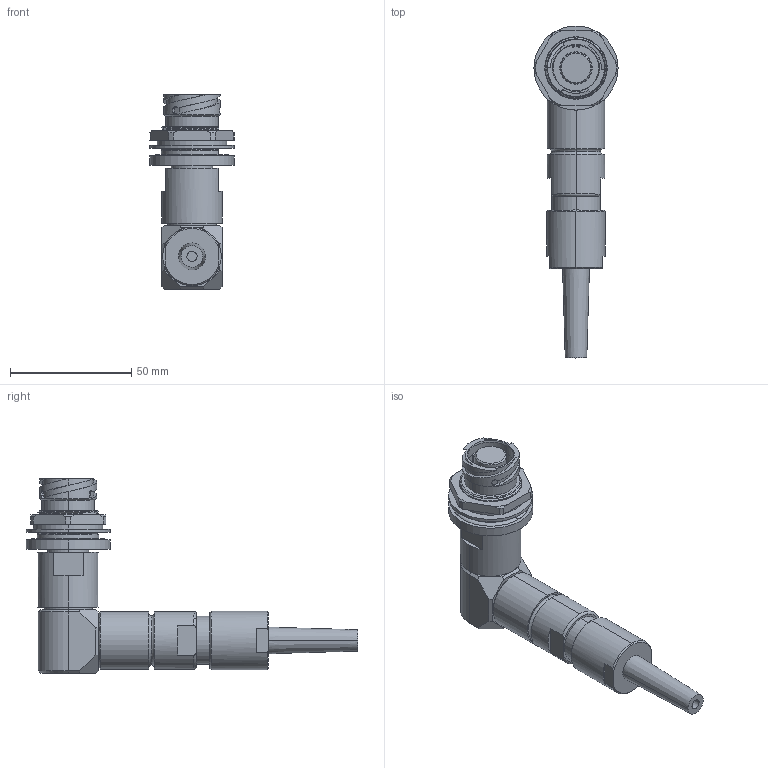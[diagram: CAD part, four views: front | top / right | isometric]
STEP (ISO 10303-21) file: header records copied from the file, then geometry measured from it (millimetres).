
FILE_DESCRIPTION (( 'STEP AP214' ), '1' );
FILE_NAME ('QLINK90-RJBX-13XX-SXXX-RA.STEP', '2025-12-16T16:53:07', ( '' ), ( '' ), 'SwSTEP 2.0', 'SolidWorks 2024', '' );
FILE_SCHEMA (( 'AUTOMOTIVE_DESIGN' ));
Length unit declared in the file: millimetre
Products named in the file (1): QLINK90-RJBX-13XX-SXXX-RA
Bounding box: 34.67 x 136.85 x 80.31 mm (x, y, z)
Volume: 71715.2 mm3; surface area: 23356.4 mm2
Topology: 2 solids, 4 shells, 319 faces, 818 edges, 526 vertices
Faces by surface type: cylinder 92, plane 81, cone 66, bspline 59, torus 21
Entity records: 27241 total; most frequent: CARTESIAN_POINT 20154, ORIENTED_EDGE 1636, DIRECTION 1307, EDGE_CURVE 818, VERTEX_POINT 526, AXIS2_PLACEMENT_3D 524, EDGE_LOOP 348, ADVANCED_FACE 319
